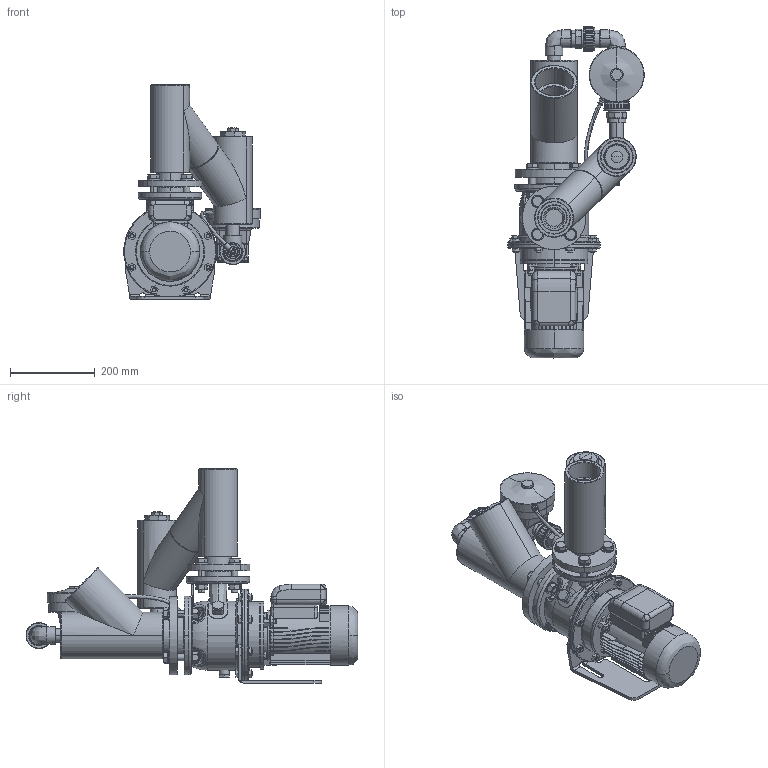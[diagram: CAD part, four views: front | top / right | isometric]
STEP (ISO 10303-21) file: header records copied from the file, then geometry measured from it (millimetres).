
FILE_DESCRIPTION (( 'STEP AP203' ), '1' );
FILE_NAME ('Lowara SHE 40-125 z.a.z auto. by-pass.STEP', '2011-04-06T08:53:30', ( '' ), ( '' ), 'SwSTEP 2.0', 'SolidWorks 2010', '' );
FILE_SCHEMA (( 'CONFIG_CONTROL_DESIGN' ));
Length unit declared in the file: millimetre
Products named in the file (1): Lowara SHE 40-125 z.a.z auto. by-pass
Bounding box: 322.5 x 783.89 x 505.48 mm (x, y, z)
Volume: 13669731.9 mm3; surface area: 1940095.5 mm2
Topology: 67 solids, 69 shells, 2697 faces, 6769 edges, 4204 vertices
Faces by surface type: plane 1010, cylinder 862, cone 400, bspline 381, torus 44
Entity records: 106206 total; most frequent: CARTESIAN_POINT 44442, ORIENTED_EDGE 13300, DIRECTION 12479, EDGE_CURVE 6650, AXIS2_PLACEMENT_3D 4956, VERTEX_POINT 4204, EDGE_LOOP 2984, ADVANCED_FACE 2697
